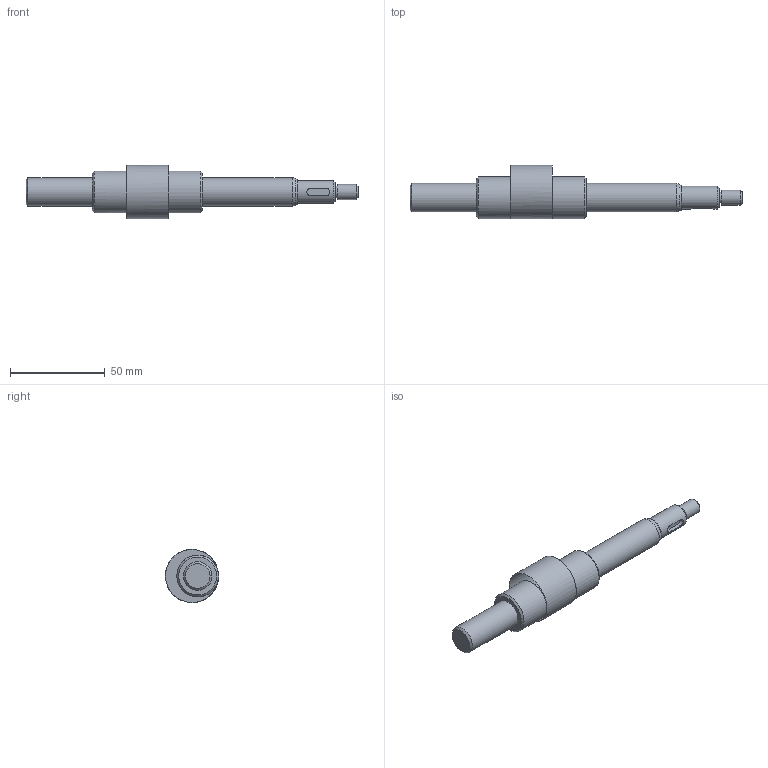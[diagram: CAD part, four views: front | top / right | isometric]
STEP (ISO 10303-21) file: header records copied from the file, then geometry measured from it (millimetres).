
FILE_DESCRIPTION(/* description */ (''),/* implementation_level */ '2;1');
FILE_NAME(/* name */ '',/* time_stamp */ '2025-08-05T14:06:53+09:00',/* author */ ('jhkim'),/* organization */ (''),/* preprocessor_version */ 'ST-DEVELOPER v20.1',/* originating_system */ 'Autodesk Inventor 2026',/* authorisation */ '');
FILE_SCHEMA (('AUTOMOTIVE_DESIGN { 1 0 10303 214 3 1 1 }'));
Length unit declared in the file: millimetre
Products named in the file (1): 편심축
Bounding box: 175 x 28 x 28 mm (x, y, z)
Volume: 44829.8 mm3; surface area: 10626.3 mm2
Topology: 1 solids, 1 shells, 29 faces, 62 edges, 40 vertices
Faces by surface type: plane 12, cylinder 10, cone 6, bspline 1
Full cylindrical faces by diameter (mm): 6 x1, 8 x1, 12 x1, 15 x2, 22 x2, 28 x1
Entity records: 892 total; most frequent: CARTESIAN_POINT 194, DIRECTION 151, ORIENTED_EDGE 124, AXIS2_PLACEMENT_3D 64, EDGE_CURVE 62, VERTEX_POINT 40, CIRCLE 35, EDGE_LOOP 34
